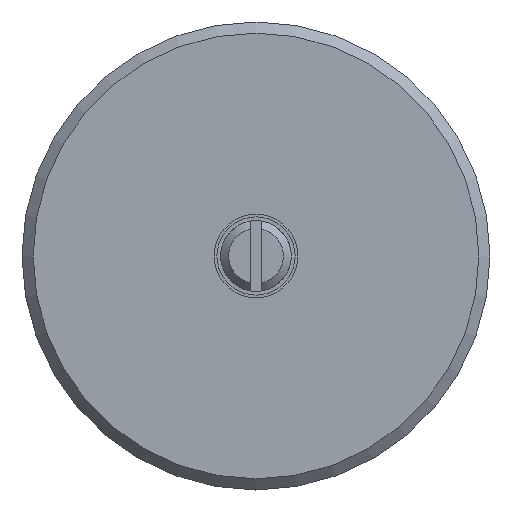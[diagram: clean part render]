
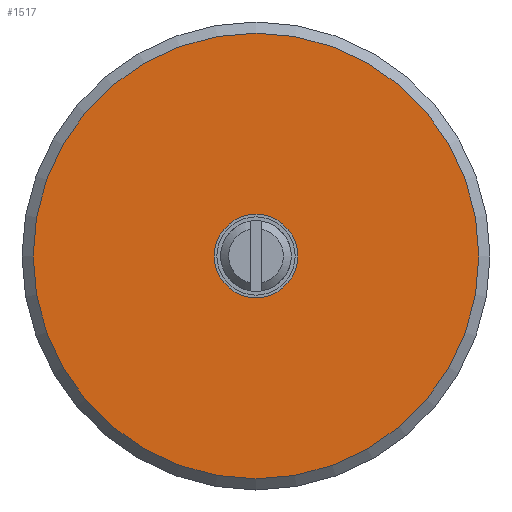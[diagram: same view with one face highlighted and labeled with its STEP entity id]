
A CAD part, left-side view. The second image highlights one B-rep face of the part: STEP entity #1517.
In plain terms, the highlighted planar face has unit normal (-1, 0, 0).
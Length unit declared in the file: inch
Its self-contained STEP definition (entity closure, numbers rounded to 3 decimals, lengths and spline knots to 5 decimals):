
#27=FACE_BOUND('',#341,.T.);
#124=CIRCLE('',#1660,0.14764);
#125=CIRCLE('',#1661,0.14764);
#128=CIRCLE('',#1666,0.7874);
#248=FACE_OUTER_BOUND('',#340,.T.);
#340=EDGE_LOOP('',(#1077));
#341=EDGE_LOOP('',(#1078,#1079));
#611=VERTEX_POINT('',#2472);
#612=VERTEX_POINT('',#2473);
#615=VERTEX_POINT('',#2484);
#781=EDGE_CURVE('',#611,#612,#124,.T.);
#782=EDGE_CURVE('',#612,#611,#125,.T.);
#788=EDGE_CURVE('',#615,#615,#128,.T.);
#1077=ORIENTED_EDGE('',*,*,#788,.F.);
#1078=ORIENTED_EDGE('',*,*,#781,.T.);
#1079=ORIENTED_EDGE('',*,*,#782,.T.);
#1373=PLANE('',#1670);
#1517=ADVANCED_FACE('',(#248,#27),#1373,.F.);
#1660=AXIS2_PLACEMENT_3D('',#2474,#1962,#1963);
#1661=AXIS2_PLACEMENT_3D('',#2475,#1964,#1965);
#1666=AXIS2_PLACEMENT_3D('',#2486,#1977,#1978);
#1670=AXIS2_PLACEMENT_3D('',#2493,#1986,#1987);
#1962=DIRECTION('center_axis',(1.,0.,0.));
#1963=DIRECTION('ref_axis',(0.,-1.,0.));
#1964=DIRECTION('center_axis',(1.,0.,0.));
#1965=DIRECTION('ref_axis',(0.,-1.,0.));
#1977=DIRECTION('center_axis',(1.,0.,0.));
#1978=DIRECTION('ref_axis',(0.,-1.,0.));
#1986=DIRECTION('center_axis',(1.,0.,0.));
#1987=DIRECTION('ref_axis',(0.,0.,1.));
#2472=CARTESIAN_POINT('',(-2.11235,-0.04634,-0.34434));
#2473=CARTESIAN_POINT('',(-2.11235,0.24894,-0.34434));
#2474=CARTESIAN_POINT('Origin',(-2.11235,0.1013,-0.34434));
#2475=CARTESIAN_POINT('Origin',(-2.11235,0.1013,-0.34434));
#2484=CARTESIAN_POINT('',(-2.11235,0.8887,-0.34434));
#2486=CARTESIAN_POINT('Origin',(-2.11235,0.1013,-0.34434));
#2493=CARTESIAN_POINT('Origin',(-2.11235,0.1013,-0.34434));
